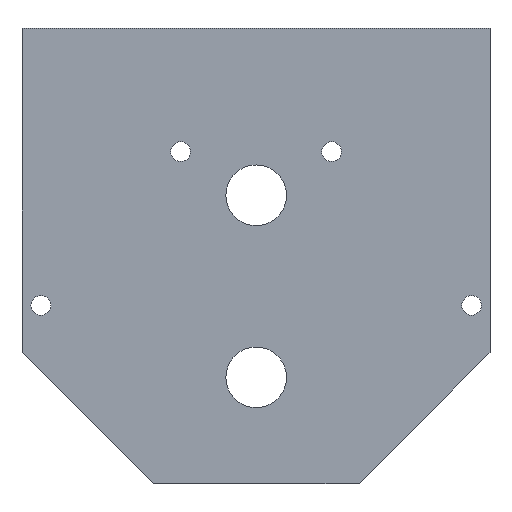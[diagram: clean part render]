
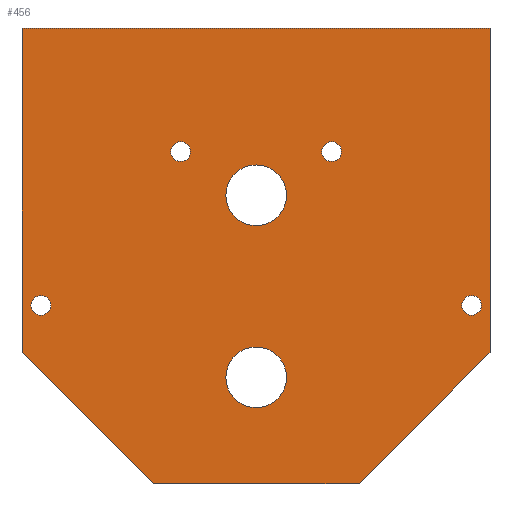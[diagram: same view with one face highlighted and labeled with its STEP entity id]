
A CAD part, front view. The second image highlights one B-rep face of the part: STEP entity #456.
In plain terms, the highlighted planar face has unit normal (0, -1, 0).
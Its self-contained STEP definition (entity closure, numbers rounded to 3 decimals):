
#1=CARTESIAN_POINT('',(-9.95,0.,13.75));
#2=DIRECTION('',(0.,-1.,0.));
#3=DIRECTION('',(1.,0.,0.));
#4=AXIS2_PLACEMENT_3D('',#1,#2,#3);
#6=CARTESIAN_POINT('',(-9.95,0.,13.75));
#7=DIRECTION('',(0.,-1.,0.));
#8=DIRECTION('',(-1.,0.,0.));
#9=AXIS2_PLACEMENT_3D('',#6,#7,#8);
#11=CARTESIAN_POINT('',(9.95,0.,13.75));
#12=DIRECTION('',(0.,-1.,0.));
#13=DIRECTION('',(1.,0.,0.));
#14=AXIS2_PLACEMENT_3D('',#11,#12,#13);
#16=CARTESIAN_POINT('',(9.95,0.,13.75));
#17=DIRECTION('',(0.,-1.,0.));
#18=DIRECTION('',(-1.,0.,0.));
#19=AXIS2_PLACEMENT_3D('',#16,#17,#18);
#21=CARTESIAN_POINT('',(0.,0.,8.));
#22=DIRECTION('',(0.,-1.,0.));
#23=DIRECTION('',(1.,0.,0.));
#24=AXIS2_PLACEMENT_3D('',#21,#22,#23);
#26=CARTESIAN_POINT('',(0.,0.,8.));
#27=DIRECTION('',(0.,-1.,0.));
#28=DIRECTION('',(-1.,0.,0.));
#29=AXIS2_PLACEMENT_3D('',#26,#27,#28);
#31=CARTESIAN_POINT('',(-28.399,0.,-6.513));
#32=DIRECTION('',(0.,-1.,0.));
#33=DIRECTION('',(1.,0.,0.));
#34=AXIS2_PLACEMENT_3D('',#31,#32,#33);
#36=CARTESIAN_POINT('',(-28.399,0.,-6.513));
#37=DIRECTION('',(0.,-1.,0.));
#38=DIRECTION('',(-1.,0.,0.));
#39=AXIS2_PLACEMENT_3D('',#36,#37,#38);
#41=CARTESIAN_POINT('',(28.399,0.,-6.513));
#42=DIRECTION('',(0.,-1.,0.));
#43=DIRECTION('',(1.,0.,0.));
#44=AXIS2_PLACEMENT_3D('',#41,#42,#43);
#46=CARTESIAN_POINT('',(28.399,0.,-6.513));
#47=DIRECTION('',(0.,-1.,0.));
#48=DIRECTION('',(-1.,0.,0.));
#49=AXIS2_PLACEMENT_3D('',#46,#47,#48);
#51=CARTESIAN_POINT('',(0.,0.,-16.));
#52=DIRECTION('',(0.,-1.,0.));
#53=DIRECTION('',(1.,0.,0.));
#54=AXIS2_PLACEMENT_3D('',#51,#52,#53);
#56=CARTESIAN_POINT('',(0.,0.,-16.));
#57=DIRECTION('',(0.,-1.,0.));
#58=DIRECTION('',(-1.,0.,0.));
#59=AXIS2_PLACEMENT_3D('',#56,#57,#58);
#61=DIRECTION('',(-1.,0.,0.));
#62=VECTOR('',#61,27.155);
#63=CARTESIAN_POINT('',(13.577,0.,-30.));
#64=LINE('',#63,#62);
#65=DIRECTION('',(-0.707,0.,0.707));
#66=VECTOR('',#65,24.453);
#67=CARTESIAN_POINT('',(-13.577,0.,-30.));
#68=LINE('',#67,#66);
#69=DIRECTION('',(0.,0.,1.));
#70=VECTOR('',#69,42.713);
#71=CARTESIAN_POINT('',(-30.873,0.,-12.713));
#72=LINE('',#71,#70);
#73=DIRECTION('',(1.,0.,0.));
#74=VECTOR('',#73,61.7);
#75=CARTESIAN_POINT('',(-30.873,0.,30.));
#76=LINE('',#75,#74);
#77=DIRECTION('',(0.,0.,-1.));
#78=VECTOR('',#77,42.759);
#79=CARTESIAN_POINT('',(30.827,0.,30.));
#80=LINE('',#79,#78);
#81=DIRECTION('',(-0.707,0.,-0.707));
#82=VECTOR('',#81,24.388);
#83=CARTESIAN_POINT('',(30.827,0.,-12.759));
#84=LINE('',#83,#82);
#313=CARTESIAN_POINT('',(-8.65,0.,13.75));
#314=CARTESIAN_POINT('',(-11.25,0.,13.75));
#315=VERTEX_POINT('',#313);
#316=VERTEX_POINT('',#314);
#317=CARTESIAN_POINT('',(11.25,0.,13.75));
#318=CARTESIAN_POINT('',(8.65,0.,13.75));
#319=VERTEX_POINT('',#317);
#320=VERTEX_POINT('',#318);
#321=CARTESIAN_POINT('',(4.,0.,8.));
#322=CARTESIAN_POINT('',(-4.,0.,8.));
#323=VERTEX_POINT('',#321);
#324=VERTEX_POINT('',#322);
#325=CARTESIAN_POINT('',(-27.099,0.,-6.513));
#326=CARTESIAN_POINT('',(-29.699,0.,-6.513));
#327=VERTEX_POINT('',#325);
#328=VERTEX_POINT('',#326);
#329=CARTESIAN_POINT('',(29.699,0.,-6.513));
#330=CARTESIAN_POINT('',(27.099,0.,-6.513));
#331=VERTEX_POINT('',#329);
#332=VERTEX_POINT('',#330);
#333=CARTESIAN_POINT('',(4.,0.,-16.));
#334=CARTESIAN_POINT('',(-4.,0.,-16.));
#335=VERTEX_POINT('',#333);
#336=VERTEX_POINT('',#334);
#337=CARTESIAN_POINT('',(13.577,0.,-30.));
#338=CARTESIAN_POINT('',(-13.577,0.,-30.));
#339=VERTEX_POINT('',#337);
#340=VERTEX_POINT('',#338);
#341=CARTESIAN_POINT('',(-30.873,0.,-12.713));
#342=VERTEX_POINT('',#341);
#343=CARTESIAN_POINT('',(-30.873,0.,30.));
#344=VERTEX_POINT('',#343);
#345=CARTESIAN_POINT('',(30.827,0.,30.));
#346=VERTEX_POINT('',#345);
#347=CARTESIAN_POINT('',(30.827,0.,-12.759));
#348=VERTEX_POINT('',#347);
#401=CARTESIAN_POINT('',(0.,0.,0.));
#402=DIRECTION('',(0.,1.,0.));
#403=DIRECTION('',(1.,0.,0.));
#404=AXIS2_PLACEMENT_3D('',#401,#402,#403);
#405=PLANE('',#404);
#407=ORIENTED_EDGE('',*,*,#406,.T.);
#409=ORIENTED_EDGE('',*,*,#408,.T.);
#411=ORIENTED_EDGE('',*,*,#410,.T.);
#413=ORIENTED_EDGE('',*,*,#412,.T.);
#415=ORIENTED_EDGE('',*,*,#414,.T.);
#417=ORIENTED_EDGE('',*,*,#416,.T.);
#418=EDGE_LOOP('',(#407,#409,#411,#413,#415,#417));
#419=FACE_OUTER_BOUND('',#418,.F.);
#421=ORIENTED_EDGE('',*,*,#420,.T.);
#423=ORIENTED_EDGE('',*,*,#422,.T.);
#424=EDGE_LOOP('',(#421,#423));
#425=FACE_BOUND('',#424,.F.);
#427=ORIENTED_EDGE('',*,*,#426,.T.);
#429=ORIENTED_EDGE('',*,*,#428,.T.);
#430=EDGE_LOOP('',(#427,#429));
#431=FACE_BOUND('',#430,.F.);
#433=ORIENTED_EDGE('',*,*,#432,.T.);
#435=ORIENTED_EDGE('',*,*,#434,.T.);
#436=EDGE_LOOP('',(#433,#435));
#437=FACE_BOUND('',#436,.F.);
#439=ORIENTED_EDGE('',*,*,#438,.T.);
#441=ORIENTED_EDGE('',*,*,#440,.T.);
#442=EDGE_LOOP('',(#439,#441));
#443=FACE_BOUND('',#442,.F.);
#445=ORIENTED_EDGE('',*,*,#444,.T.);
#447=ORIENTED_EDGE('',*,*,#446,.T.);
#448=EDGE_LOOP('',(#445,#447));
#449=FACE_BOUND('',#448,.F.);
#451=ORIENTED_EDGE('',*,*,#450,.T.);
#453=ORIENTED_EDGE('',*,*,#452,.T.);
#454=EDGE_LOOP('',(#451,#453));
#455=FACE_BOUND('',#454,.F.);
#456=ADVANCED_FACE('',(#419,#425,#431,#437,#443,#449,#455),#405,.F.);
#5=CIRCLE('',#4,1.3);
#10=CIRCLE('',#9,1.3);
#15=CIRCLE('',#14,1.3);
#20=CIRCLE('',#19,1.3);
#25=CIRCLE('',#24,4.);
#30=CIRCLE('',#29,4.);
#35=CIRCLE('',#34,1.3);
#40=CIRCLE('',#39,1.3);
#45=CIRCLE('',#44,1.3);
#50=CIRCLE('',#49,1.3);
#55=CIRCLE('',#54,4.);
#60=CIRCLE('',#59,4.);
#406=EDGE_CURVE('',#339,#340,#64,.T.);
#408=EDGE_CURVE('',#340,#342,#68,.T.);
#410=EDGE_CURVE('',#342,#344,#72,.T.);
#412=EDGE_CURVE('',#344,#346,#76,.T.);
#414=EDGE_CURVE('',#346,#348,#80,.T.);
#416=EDGE_CURVE('',#348,#339,#84,.T.);
#420=EDGE_CURVE('',#319,#320,#15,.T.);
#422=EDGE_CURVE('',#320,#319,#20,.T.);
#426=EDGE_CURVE('',#323,#324,#25,.T.);
#428=EDGE_CURVE('',#324,#323,#30,.T.);
#432=EDGE_CURVE('',#327,#328,#35,.T.);
#434=EDGE_CURVE('',#328,#327,#40,.T.);
#438=EDGE_CURVE('',#331,#332,#45,.T.);
#440=EDGE_CURVE('',#332,#331,#50,.T.);
#444=EDGE_CURVE('',#335,#336,#55,.T.);
#446=EDGE_CURVE('',#336,#335,#60,.T.);
#450=EDGE_CURVE('',#315,#316,#5,.T.);
#452=EDGE_CURVE('',#316,#315,#10,.T.);
